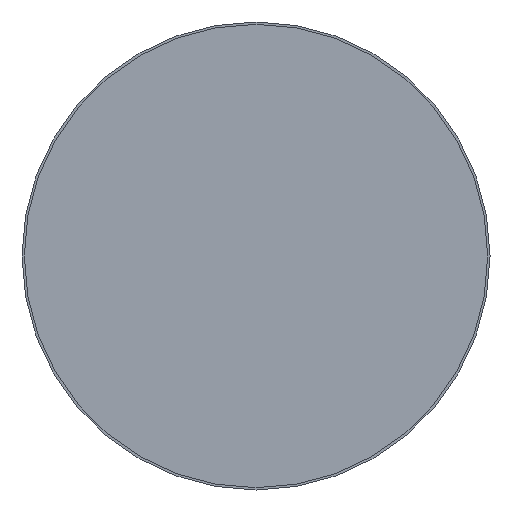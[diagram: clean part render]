
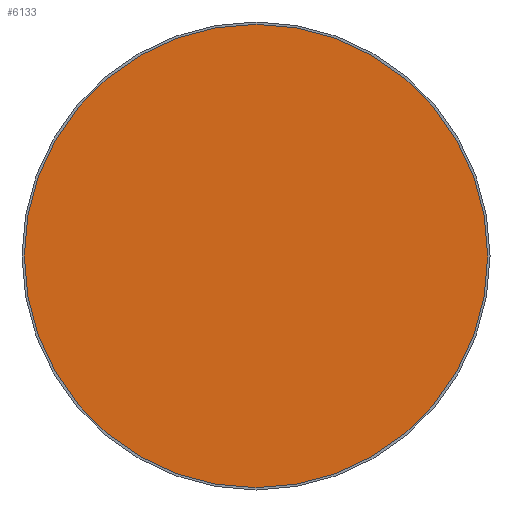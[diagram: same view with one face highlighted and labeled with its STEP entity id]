
A CAD part, front view. The second image highlights one B-rep face of the part: STEP entity #6133.
In plain terms, the highlighted planar face has unit normal (0, -1, 0).
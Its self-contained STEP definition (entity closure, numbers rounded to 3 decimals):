
#396=PLANE('',#6746);
#787=FACE_OUTER_BOUND('',#1182,.T.);
#1182=EDGE_LOOP('',(#5698));
#2659=CIRCLE('',#6745,302.);
#3199=VERTEX_POINT('',#10280);
#4033=EDGE_CURVE('',#3199,#3199,#2659,.T.);
#5698=ORIENTED_EDGE('',*,*,#4033,.F.);
#6133=ADVANCED_FACE('',(#787),#396,.T.);
#6745=AXIS2_PLACEMENT_3D('',#10282,#8497,#8498);
#6746=AXIS2_PLACEMENT_3D('',#10283,#8499,#8500);
#8497=DIRECTION('center_axis',(0.,1.,0.));
#8498=DIRECTION('ref_axis',(1.,0.,0.));
#8499=DIRECTION('center_axis',(0.,-1.,0.));
#8500=DIRECTION('ref_axis',(1.,0.,0.));
#10280=CARTESIAN_POINT('',(-302.,5.,0.));
#10282=CARTESIAN_POINT('Origin',(0.,5.,0.));
#10283=CARTESIAN_POINT('Origin',(0.,5.,0.));
